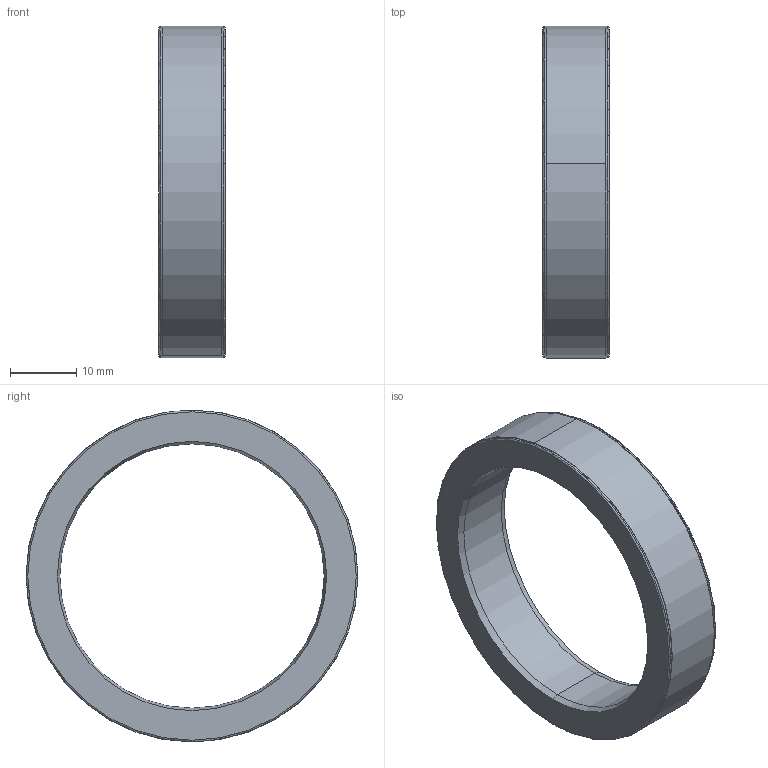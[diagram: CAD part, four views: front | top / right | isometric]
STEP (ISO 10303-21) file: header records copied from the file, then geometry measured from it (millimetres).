
FILE_DESCRIPTION (( 'STEP AP214' ), '1' );
FILE_NAME ('MR050U040.STEP', '2021-09-21T13:30:56', ( '' ), ( '' ), 'SwSTEP 2.0', 'SolidWorks 2020', '' );
FILE_SCHEMA (( 'AUTOMOTIVE_DESIGN' ));
Length unit declared in the file: millimetre
Products named in the file (1): MR050U040
Bounding box: 10 x 50.25 x 50.25 mm (x, y, z)
Volume: 7204.5 mm3; surface area: 4189.6 mm2
Topology: 1 solids, 1 shells, 426 faces, 1133 edges, 754 vertices
Faces by surface type: plane 251, bspline 147, cylinder 20, torus 4, cone 4
Entity records: 24607 total; most frequent: CARTESIAN_POINT 10269, ORIENTED_EDGE 2266, DIRECTION 1455, EDGE_CURVE 1133, LINE 783, VECTOR 783, VERTEX_POINT 754, EDGE_LOOP 473
